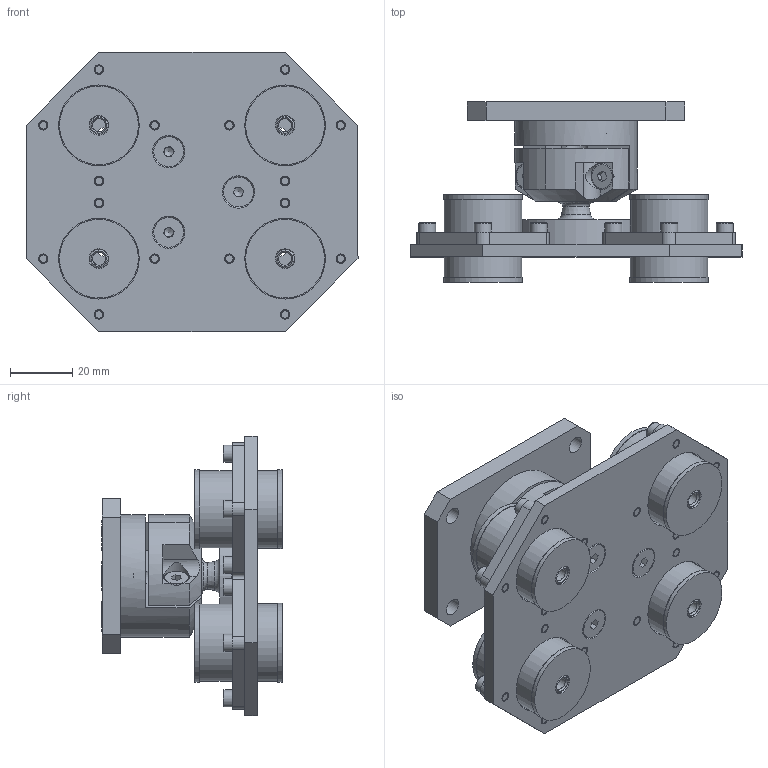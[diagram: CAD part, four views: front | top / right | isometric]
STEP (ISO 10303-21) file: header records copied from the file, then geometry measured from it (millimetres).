
FILE_DESCRIPTION(/* description */ (''),/* implementation_level */ '2;1');
FILE_NAME(/* name */ '3DCAD_BTS_0500M_W.stp',/* time_stamp */ '2019-07-31T15:23:38+02:00',/* author */ ('CC2'),/* organization */ ('Leuze electronic'),/* preprocessor_version */ 'ST-DEVELOPER v16',/* originating_system */ 'SIEMENS PLM Software NX 11.0',/* authorisation */ '');
FILE_SCHEMA (('AUTOMOTIVE_DESIGN { 1 0 10303 214 3 1 1 1 }'));
Length unit declared in the file: millimetre
Products named in the file (1): 19-102998_00_1-3DCAD_BTS_0500M_W
Bounding box: 107 x 58.2 x 90 mm (x, y, z)
Volume: 143423.3 mm3; surface area: 68705 mm2
Topology: 12 solids, 32 shells, 832 faces, 1858 edges, 1161 vertices
Faces by surface type: plane 470, cylinder 182, cone 122, torus 55, sphere 3
Full cylindrical faces by diameter (mm): 2.5 x16, 3 x16, 3.6 x16, 4.134 x9, 4.2 x4, 5 x7, 5.3 x8, 5.4 x8, 5.5 x23, 5.8 x3, 8 x5, 8.2 x4, 8.5 x2, 8.7 x6, 9.64 x6, 16 x8, 25 x8, 25.4 x8, 26 x4, 39.5 x2
Entity records: 20989 total; most frequent: CARTESIAN_POINT 3775, DIRECTION 3706, ORIENTED_EDGE 2828, AXIS2_PLACEMENT_3D 1493, EDGE_CURVE 1414, EDGE_LOOP 1340, VERTEX_POINT 1076, FACE_BOUND 979
